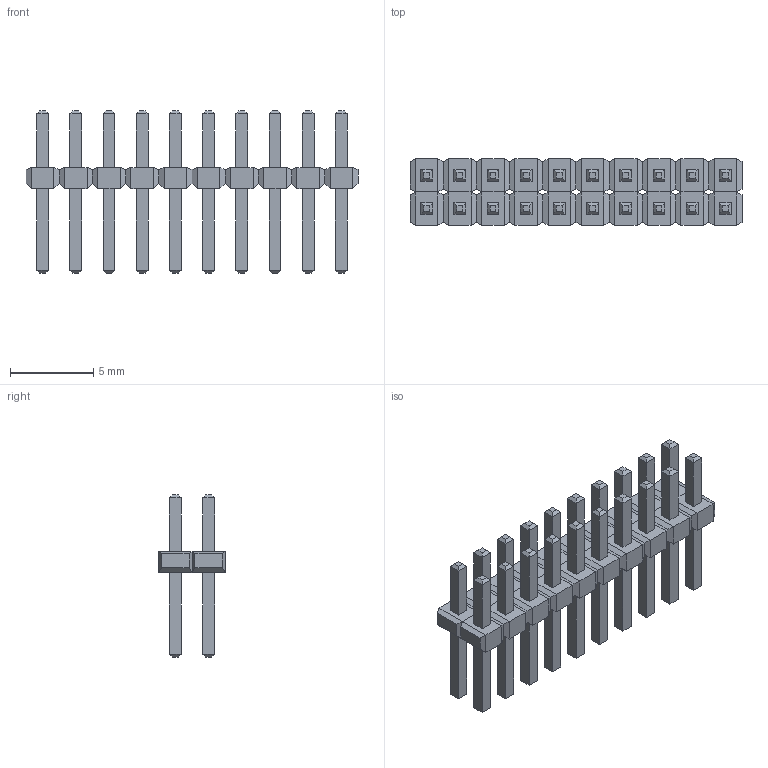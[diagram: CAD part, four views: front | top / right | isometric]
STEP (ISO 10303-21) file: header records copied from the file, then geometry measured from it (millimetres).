
FILE_DESCRIPTION(('STEP AP214'),'1');
FILE_NAME('CONN_TMM-110-01-G-D_SAI','2023-04-06T23:04:43',(''),(''),'','','');
FILE_SCHEMA(('AUTOMOTIVE_DESIGN'));
Length unit declared in the file: millimetre
Products named in the file (1): product
Bounding box: 19.99 x 4 x 9.78 mm (x, y, z)
Volume: 179 mm3; surface area: 783.1 mm2
Topology: 42 solids, 42 shells, 644 faces, 1288 edges, 728 vertices
Faces by surface type: plane 644
Entity records: 15121 total; most frequent: DIRECTION 2578, ORIENTED_EDGE 2576, CARTESIAN_POINT 1373, EDGE_CURVE 1288, LINE 1288, VECTOR 1288, VERTEX_POINT 728, AXIS2_PLACEMENT_3D 645
